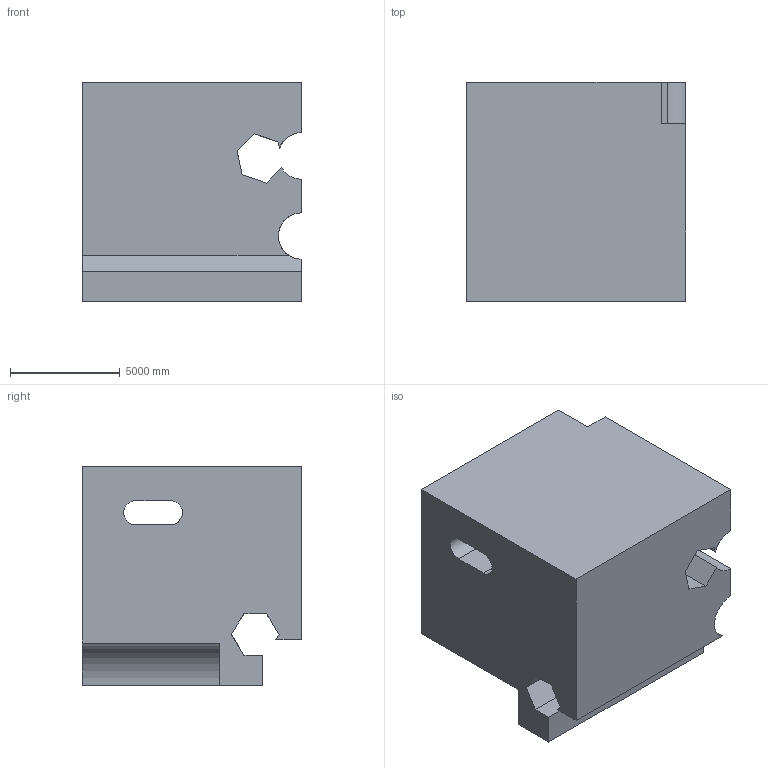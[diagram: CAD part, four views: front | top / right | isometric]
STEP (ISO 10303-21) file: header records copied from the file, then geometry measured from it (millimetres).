
FILE_DESCRIPTION (( 'STEP AP203' ), '1' );
FILE_NAME ('1986.STEP', '2022-08-23T10:17:21', ( 'user' ), ( '' ), 'SwSTEP 2.0', 'SolidWorks 2021', '' );
FILE_SCHEMA (( 'CONFIG_CONTROL_DESIGN' ));
Length unit declared in the file: centimetre
Products named in the file (1): 1986
Bounding box: 10000 x 10000 x 10000 mm (x, y, z)
Volume: 805613825400.9 mm3; surface area: 731819880.2 mm2
Topology: 1 solids, 1 shells, 47 faces, 144 edges, 96 vertices
Faces by surface type: plane 36, cylinder 11
Entity records: 1875 total; most frequent: CARTESIAN_POINT 545, ORIENTED_EDGE 288, DIRECTION 237, EDGE_CURVE 144, LINE 101, VECTOR 101, VERTEX_POINT 96, AXIS2_PLACEMENT_3D 68
